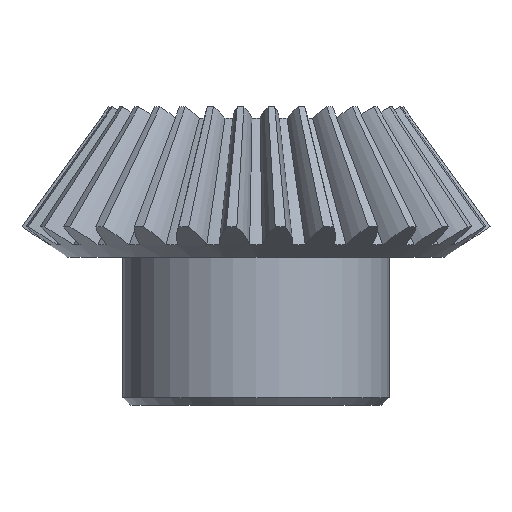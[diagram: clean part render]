
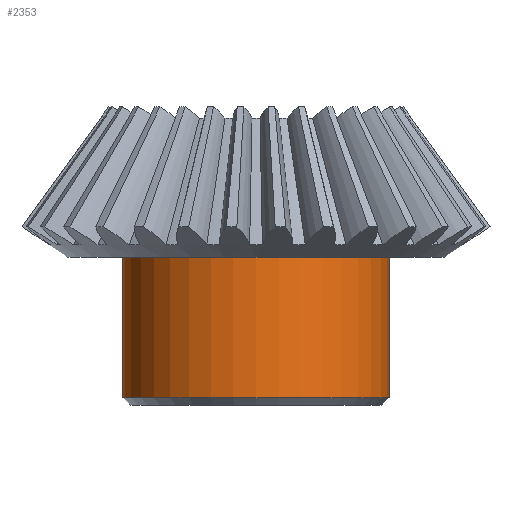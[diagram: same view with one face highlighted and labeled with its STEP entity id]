
A CAD part, front view. The second image highlights one B-rep face of the part: STEP entity #2353.
In plain terms, the highlighted cylindrical face has radius 18 mm (diameter 36 mm), a full revolution.
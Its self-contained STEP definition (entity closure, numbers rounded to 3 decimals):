
#316=CYLINDRICAL_SURFACE('',#2523,18.);
#329=CIRCLE('',#2520,18.);
#330=CIRCLE('',#2521,18.);
#331=CIRCLE('',#2524,18.);
#537=FACE_OUTER_BOUND('',#678,.T.);
#678=EDGE_LOOP('',(#1575,#1576,#1577,#1578,#1579));
#828=LINE('',#3244,#852);
#852=VECTOR('',#2778,18.);
#876=VERTEX_POINT('',#3233);
#877=VERTEX_POINT('',#3235);
#879=VERTEX_POINT('',#3243);
#1152=EDGE_CURVE('',#876,#877,#329,.T.);
#1153=EDGE_CURVE('',#877,#876,#330,.T.);
#1156=EDGE_CURVE('',#877,#879,#828,.T.);
#1157=EDGE_CURVE('',#879,#879,#331,.T.);
#1575=ORIENTED_EDGE('',*,*,#1152,.F.);
#1576=ORIENTED_EDGE('',*,*,#1153,.F.);
#1577=ORIENTED_EDGE('',*,*,#1156,.T.);
#1578=ORIENTED_EDGE('',*,*,#1157,.T.);
#1579=ORIENTED_EDGE('',*,*,#1156,.F.);
#2353=ADVANCED_FACE('',(#537),#316,.T.);
#2520=AXIS2_PLACEMENT_3D('',#3236,#2768,#2769);
#2521=AXIS2_PLACEMENT_3D('',#3237,#2770,#2771);
#2523=AXIS2_PLACEMENT_3D('',#3242,#2776,#2777);
#2524=AXIS2_PLACEMENT_3D('',#3245,#2779,#2780);
#2768=DIRECTION('center_axis',(0.,0.,-1.));
#2769=DIRECTION('ref_axis',(1.,0.,0.));
#2770=DIRECTION('center_axis',(0.,0.,-1.));
#2771=DIRECTION('ref_axis',(1.,0.,0.));
#2776=DIRECTION('center_axis',(0.,0.,-1.));
#2777=DIRECTION('ref_axis',(-1.,0.,0.));
#2778=DIRECTION('',(0.,0.,1.));
#2779=DIRECTION('center_axis',(0.,0.,-1.));
#2780=DIRECTION('ref_axis',(1.,0.,0.));
#3233=CARTESIAN_POINT('',(-18.,0.,-67.));
#3235=CARTESIAN_POINT('',(18.,0.,-67.));
#3236=CARTESIAN_POINT('Origin',(0.,0.,-67.));
#3237=CARTESIAN_POINT('Origin',(0.,0.,-67.));
#3242=CARTESIAN_POINT('Origin',(0.,0.,-58.));
#3243=CARTESIAN_POINT('',(18.,0.,-48.));
#3244=CARTESIAN_POINT('',(18.,0.,-58.));
#3245=CARTESIAN_POINT('Origin',(0.,0.,-48.));
